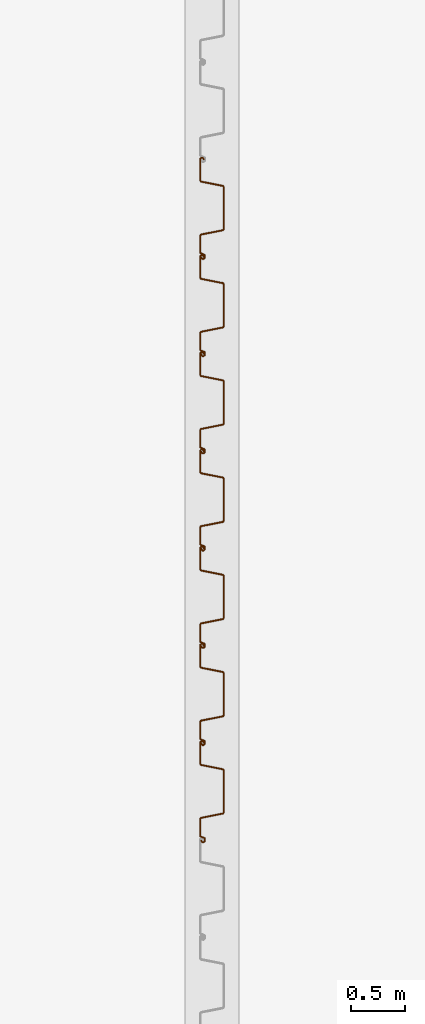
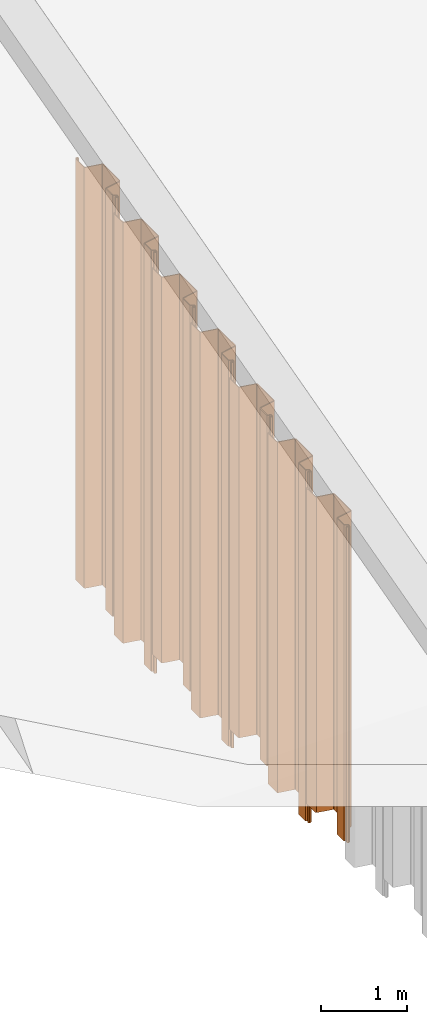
# One storey, part 22 of 32: 7 proxies.
"""IFC2X3 building model written with IfcOpenShell, lengths in millimetres."""

from ifc_helpers import new_model, entity, si_unit, converted_unit, derived_unit, direction, frame, frame_2d, origin, place, context, subcontext, project, spatial, polyline, circle_curve, parameter, trimmed, segment, composite_curve, outline, extrude, source, transform, mapped, type_object, type_shapes, element, save


model = new_model("IFC2X3")

# Units and contexts
model_context = context("Model", 3, precision=0.01, world=origin(), true_north=direction((6.12303176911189e-17, 1.0)))
body_context = subcontext(model_context, "Body", "Model", "MODEL_VIEW")
ifc_project = project(units=[si_unit("LENGTHUNIT", "METRE", prefix="MILLI"), si_unit("AREAUNIT", "SQUARE_METRE"), si_unit("VOLUMEUNIT", "CUBIC_METRE"), converted_unit("PLANEANGLEUNIT", "DEGREE", entity("IfcRatioMeasure", 0.0174532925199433), si_unit("PLANEANGLEUNIT", "RADIAN"), dimensions=[0, 0, 0, 0, 0, 0, 0]), si_unit("MASSUNIT", "GRAM", prefix="KILO"), derived_unit("MASSDENSITYUNIT", [(si_unit("MASSUNIT", "GRAM", prefix="KILO"), 1), (si_unit("LENGTHUNIT", "METRE"), -3)]), si_unit("TIMEUNIT", "SECOND"), si_unit("FREQUENCYUNIT", "HERTZ"), si_unit("THERMODYNAMICTEMPERATUREUNIT", "DEGREE_CELSIUS"), derived_unit("THERMALTRANSMITTANCEUNIT", [(si_unit("MASSUNIT", "GRAM", prefix="KILO"), 1), (si_unit("THERMODYNAMICTEMPERATUREUNIT", "KELVIN"), -1), (si_unit("TIMEUNIT", "SECOND"), -3)]), derived_unit("VOLUMETRICFLOWRATEUNIT", [(si_unit("LENGTHUNIT", "METRE"), 3), (si_unit("TIMEUNIT", "SECOND"), -1)]), si_unit("ELECTRICCURRENTUNIT", "AMPERE"), si_unit("ELECTRICVOLTAGEUNIT", "VOLT"), si_unit("POWERUNIT", "WATT"), si_unit("FORCEUNIT", "NEWTON", prefix="KILO"), si_unit("ILLUMINANCEUNIT", "LUX"), si_unit("LUMINOUSFLUXUNIT", "LUMEN"), si_unit("LUMINOUSINTENSITYUNIT", "CANDELA"), derived_unit("USERDEFINED", [(si_unit("MASSUNIT", "GRAM", prefix="KILO"), -1), (si_unit("LENGTHUNIT", "METRE"), -2), (si_unit("TIMEUNIT", "SECOND"), 3), (si_unit("LUMINOUSFLUXUNIT", "LUMEN"), 1)]), derived_unit("LINEARVELOCITYUNIT", [(si_unit("LENGTHUNIT", "METRE"), 1), (si_unit("TIMEUNIT", "SECOND"), -1)]), si_unit("PRESSUREUNIT", "PASCAL"), derived_unit("USERDEFINED", [(si_unit("LENGTHUNIT", "METRE"), -2), (si_unit("MASSUNIT", "GRAM", prefix="KILO"), 1), (si_unit("TIMEUNIT", "SECOND"), -2)])], contexts=[model_context])

# Site, building, storey
site_placement = place(None, origin())
site = spatial("IfcSite", under=ifc_project, at=site_placement, Name="Default", CompositionType="ELEMENT")
building_placement = place(site_placement, origin())
building = spatial("IfcBuilding", under=site, at=building_placement, CompositionType="ELEMENT")
storey_placement = place(building_placement, origin())
storey = spatial("IfcBuildingStorey", under=building, at=storey_placement, Name="矢板", CompositionType="ELEMENT", Elevation=0.0)

# Proxies
building_element_proxy_type_1 = type_object("IfcBuildingElementProxyType", Name="鋼矢板10H型", PredefinedType="NOTDEFINED")
shared_shape_1 = source(origin(), body_context, "Body", "SweptSolid", [
    extrude(outline(composite_curve([segment(trimmed(circle_curve(frame_2d((85.3662976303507, 306.644432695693), x_axis=(0.422618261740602, 0.906307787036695)), 13.885714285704), [parameter(24.9999999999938)], [parameter(90.0000000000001)], True, "PARAMETER"), True, "CONTINUOUS"), segment(polyline([(72.7815666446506, 312.512789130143), (9.8129512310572, 177.476157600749)]), True, "CONTINUOUS"), segment(trimmed(circle_curve(frame_2d((29.3891994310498, 168.347603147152), x_axis=(0.422618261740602, 0.906307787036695)), 21.6), [parameter(90.0000000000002)], [parameter(168.69006752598)], True, "PARAMETER"), True, "CONTINUOUS"), segment(polyline([(16.598697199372, 150.941769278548), (175.329723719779, 34.2998683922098)]), True, "CONTINUOUS"), segment(trimmed(circle_curve(frame_2d((168.93447260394, 25.596951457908), x_axis=(0.422618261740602, 0.906307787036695)), 10.7999999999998), [parameter(270.0)], [parameter(348.690067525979)], True, "PARAMETER"), False, "CONTINUOUS"), segment(polyline([(178.722596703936, 21.0326742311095), (18.2974003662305, -323.000269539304)]), True, "CONTINUOUS"), segment(trimmed(circle_curve(frame_2d((8.50927626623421, -318.435992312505), x_axis=(0.422618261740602, 0.906307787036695)), 10.8), [parameter(191.30993247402)], [parameter(269.999999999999)], True, "PARAMETER"), False, "CONTINUOUS"), segment(polyline([(5.95324328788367, -328.929166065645), (-185.429973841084, -282.310113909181)]), True, "CONTINUOUS"), segment(trimmed(circle_curve(frame_2d((-190.542039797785, -303.296461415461), x_axis=(0.422618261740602, 0.906307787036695)), 21.6000000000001), [parameter(11.3099324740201)], [parameter(90.0000000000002)], True, "PARAMETER"), True, "CONTINUOUS"), segment(polyline([(-210.118287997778, -294.167906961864), (-290.330886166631, -466.184378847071)]), True, "CONTINUOUS"), segment(trimmed(circle_curve(frame_2d((-270.754637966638, -475.312933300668), x_axis=(0.422618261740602, 0.906307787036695)), 21.6), [parameter(90.0000000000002)], [parameter(269.999999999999)], True, "PARAMETER"), True, "CONTINUOUS"), segment(polyline([(-251.178389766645, -484.441487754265), (-249.065298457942, -479.909948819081)]), True, "CONTINUOUS"), segment(polyline([(-249.065298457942, -479.909948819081), (-258.853422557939, -475.345671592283)]), True, "CONTINUOUS"), segment(polyline([(-258.853422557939, -475.345671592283), (-260.966513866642, -479.877210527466)]), True, "CONTINUOUS"), segment(trimmed(circle_curve(frame_2d((-270.754637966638, -475.312933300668), x_axis=(0.422618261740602, 0.906307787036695)), 10.8), [parameter(90.0000000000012)], [parameter(270.0)], True, "PARAMETER"), False, "CONTINUOUS"), segment(polyline([(-280.542762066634, -470.748656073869), (-200.330163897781, -298.732184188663)]), True, "CONTINUOUS"), segment(trimmed(circle_curve(frame_2d((-190.542039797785, -303.296461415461), x_axis=(0.422618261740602, 0.906307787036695)), 10.8), [parameter(11.3099324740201)], [parameter(89.9999999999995)], True, "PARAMETER"), False, "CONTINUOUS"), segment(polyline([(-187.986006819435, -292.803287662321), (3.39721030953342, -339.422339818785)]), True, "CONTINUOUS"), segment(trimmed(circle_curve(frame_2d((8.50927626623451, -318.435992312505), x_axis=(0.422618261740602, 0.906307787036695)), 21.6), [parameter(191.30993247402)], [parameter(270.0)], True, "PARAMETER"), True, "CONTINUOUS"), segment(polyline([(28.0855244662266, -327.564546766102), (188.510720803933, 16.4683970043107)]), True, "CONTINUOUS"), segment(trimmed(circle_curve(frame_2d((168.93447260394, 25.5969514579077), x_axis=(0.422618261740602, 0.906307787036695)), 21.6), [parameter(270.0)], [parameter(348.69006752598)], True, "PARAMETER"), True, "CONTINUOUS"), segment(polyline([(181.724974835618, 43.0027853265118), (22.9939483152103, 159.644686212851)]), True, "CONTINUOUS"), segment(trimmed(circle_curve(frame_2d((29.3891994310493, 168.347603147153), x_axis=(0.422618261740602, 0.906307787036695)), 10.7999999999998), [parameter(89.9999999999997)], [parameter(168.690067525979)], True, "PARAMETER"), False, "CONTINUOUS"), segment(polyline([(19.6010753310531, 172.911880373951), (82.5696907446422, 307.948511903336)]), True, "CONTINUOUS"), segment(trimmed(circle_curve(frame_2d((85.3662976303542, 306.64443269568), x_axis=(0.422618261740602, 0.906307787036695)), 3.08571428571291), [parameter(25.0000000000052)], [parameter(90.0000000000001)], True, "PARAMETER"), False, "CONTINUOUS"), segment(polyline([(85.3662976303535, 309.730146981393), (122.220231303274, 309.730146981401)]), True, "CONTINUOUS"), segment(trimmed(circle_curve(frame_2d((122.220231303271, 323.615861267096), x_axis=(0.422618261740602, 0.906307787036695)), 13.8857142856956), [parameter(205.000000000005)], [parameter(270.0)], True, "PARAMETER"), True, "CONTINUOUS"), segment(polyline([(134.804962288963, 317.747504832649), (141.079261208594, 331.202782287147)]), True, "CONTINUOUS"), segment(trimmed(circle_curve(frame_2d((121.503013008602, 340.331336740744), x_axis=(0.422618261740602, 0.906307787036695)), 21.6), [parameter(270.0)], [parameter(90.0000000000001)], True, "PARAMETER"), True, "CONTINUOUS"), segment(polyline([(101.926764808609, 349.459891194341), (99.8136734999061, 344.928352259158)]), True, "CONTINUOUS"), segment(polyline([(99.8136734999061, 344.928352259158), (109.601797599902, 340.364075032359)]), True, "CONTINUOUS"), segment(polyline([(109.601797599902, 340.364075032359), (111.714888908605, 344.895613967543)]), True, "CONTINUOUS"), segment(trimmed(circle_curve(frame_2d((121.503013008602, 340.331336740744), x_axis=(0.422618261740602, 0.906307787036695)), 10.8), [parameter(270.0)], [parameter(89.9999999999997)], True, "PARAMETER"), False, "CONTINUOUS"), segment(polyline([(131.291137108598, 335.767059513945), (125.01683818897, 322.311782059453)]), True, "CONTINUOUS"), segment(trimmed(circle_curve(frame_2d((122.220231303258, 323.615861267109), x_axis=(0.422618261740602, 0.906307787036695)), 3.08571428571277), [parameter(204.999999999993)], [parameter(270.0)], True, "PARAMETER"), False, "CONTINUOUS"), segment(polyline([(122.220231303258, 320.530146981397), (85.3662976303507, 320.530146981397)]), True, "CONTINUOUS")], self_intersect=False)), frame((95.205667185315, -48.8888888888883, -6000.0), z_axis=(0.0, 0.0, -1.0), x_axis=(0.4226182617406, 0.906307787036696, 0.0)), (0.0, 0.0, -1.0), 6000.0),
])
type_shapes(building_element_proxy_type_1, [shared_shape_1])
for number, where, z_axis, x_axis in (
    (1, (148500.0, -24049.0, 8234.0), (0.0, 0.0, 1.0), (0.0, -1.0, 0.0)),
    (2, (148500.0, -24949.0, 7997.0), (0.0, 0.0, 1.0), (0.0, -1.0, 0.0)),
):
    element("IfcBuildingElementProxy", number, at=place(storey_placement, frame(where, z_axis=z_axis, x_axis=x_axis)), inside=storey, type_object=building_element_proxy_type_1, Name="鋼矢板10H型:鋼矢板10H型", ObjectType="鋼矢板10H型:鋼矢板10H型", context=body_context, shape_type="MappedRepresentation", body=[
        mapped(shared_shape_1, transform((0.0, 0.0, 0.0), scale=1.0)),
    ])
building_element_proxy_type_2 = type_object("IfcBuildingElementProxyType", Name="鋼矢板10H型", PredefinedType="NOTDEFINED")
shared_shape_2 = source(origin(), body_context, "Body", "SweptSolid", [
    extrude(outline(composite_curve([segment(trimmed(circle_curve(frame_2d((85.3662976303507, 306.644432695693), x_axis=(0.422618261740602, 0.906307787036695)), 13.885714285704), [parameter(24.9999999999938)], [parameter(90.0000000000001)], True, "PARAMETER"), True, "CONTINUOUS"), segment(polyline([(72.7815666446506, 312.512789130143), (9.8129512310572, 177.476157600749)]), True, "CONTINUOUS"), segment(trimmed(circle_curve(frame_2d((29.3891994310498, 168.347603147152), x_axis=(0.422618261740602, 0.906307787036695)), 21.6), [parameter(90.0000000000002)], [parameter(168.69006752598)], True, "PARAMETER"), True, "CONTINUOUS"), segment(polyline([(16.598697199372, 150.941769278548), (175.329723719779, 34.2998683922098)]), True, "CONTINUOUS"), segment(trimmed(circle_curve(frame_2d((168.93447260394, 25.596951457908), x_axis=(0.422618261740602, 0.906307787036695)), 10.7999999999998), [parameter(270.0)], [parameter(348.690067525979)], True, "PARAMETER"), False, "CONTINUOUS"), segment(polyline([(178.722596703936, 21.0326742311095), (18.2974003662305, -323.000269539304)]), True, "CONTINUOUS"), segment(trimmed(circle_curve(frame_2d((8.50927626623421, -318.435992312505), x_axis=(0.422618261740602, 0.906307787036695)), 10.8), [parameter(191.30993247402)], [parameter(269.999999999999)], True, "PARAMETER"), False, "CONTINUOUS"), segment(polyline([(5.95324328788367, -328.929166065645), (-185.429973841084, -282.310113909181)]), True, "CONTINUOUS"), segment(trimmed(circle_curve(frame_2d((-190.542039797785, -303.296461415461), x_axis=(0.422618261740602, 0.906307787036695)), 21.6000000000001), [parameter(11.3099324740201)], [parameter(90.0000000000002)], True, "PARAMETER"), True, "CONTINUOUS"), segment(polyline([(-210.118287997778, -294.167906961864), (-290.330886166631, -466.184378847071)]), True, "CONTINUOUS"), segment(trimmed(circle_curve(frame_2d((-270.754637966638, -475.312933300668), x_axis=(0.422618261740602, 0.906307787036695)), 21.6), [parameter(90.0000000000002)], [parameter(269.999999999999)], True, "PARAMETER"), True, "CONTINUOUS"), segment(polyline([(-251.178389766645, -484.441487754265), (-249.065298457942, -479.909948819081)]), True, "CONTINUOUS"), segment(polyline([(-249.065298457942, -479.909948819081), (-258.853422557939, -475.345671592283)]), True, "CONTINUOUS"), segment(polyline([(-258.853422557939, -475.345671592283), (-260.966513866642, -479.877210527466)]), True, "CONTINUOUS"), segment(trimmed(circle_curve(frame_2d((-270.754637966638, -475.312933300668), x_axis=(0.422618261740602, 0.906307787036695)), 10.8), [parameter(90.0000000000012)], [parameter(270.0)], True, "PARAMETER"), False, "CONTINUOUS"), segment(polyline([(-280.542762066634, -470.748656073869), (-200.330163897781, -298.732184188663)]), True, "CONTINUOUS"), segment(trimmed(circle_curve(frame_2d((-190.542039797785, -303.296461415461), x_axis=(0.422618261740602, 0.906307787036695)), 10.8), [parameter(11.3099324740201)], [parameter(89.9999999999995)], True, "PARAMETER"), False, "CONTINUOUS"), segment(polyline([(-187.986006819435, -292.803287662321), (3.39721030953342, -339.422339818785)]), True, "CONTINUOUS"), segment(trimmed(circle_curve(frame_2d((8.50927626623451, -318.435992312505), x_axis=(0.422618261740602, 0.906307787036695)), 21.6), [parameter(191.30993247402)], [parameter(270.0)], True, "PARAMETER"), True, "CONTINUOUS"), segment(polyline([(28.0855244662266, -327.564546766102), (188.510720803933, 16.4683970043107)]), True, "CONTINUOUS"), segment(trimmed(circle_curve(frame_2d((168.93447260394, 25.5969514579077), x_axis=(0.422618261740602, 0.906307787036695)), 21.6), [parameter(270.0)], [parameter(348.69006752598)], True, "PARAMETER"), True, "CONTINUOUS"), segment(polyline([(181.724974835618, 43.0027853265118), (22.9939483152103, 159.644686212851)]), True, "CONTINUOUS"), segment(trimmed(circle_curve(frame_2d((29.3891994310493, 168.347603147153), x_axis=(0.422618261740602, 0.906307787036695)), 10.7999999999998), [parameter(89.9999999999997)], [parameter(168.690067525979)], True, "PARAMETER"), False, "CONTINUOUS"), segment(polyline([(19.6010753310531, 172.911880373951), (82.5696907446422, 307.948511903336)]), True, "CONTINUOUS"), segment(trimmed(circle_curve(frame_2d((85.3662976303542, 306.64443269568), x_axis=(0.422618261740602, 0.906307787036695)), 3.08571428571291), [parameter(25.0000000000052)], [parameter(90.0000000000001)], True, "PARAMETER"), False, "CONTINUOUS"), segment(polyline([(85.3662976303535, 309.730146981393), (122.220231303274, 309.730146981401)]), True, "CONTINUOUS"), segment(trimmed(circle_curve(frame_2d((122.220231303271, 323.615861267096), x_axis=(0.422618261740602, 0.906307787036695)), 13.8857142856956), [parameter(205.000000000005)], [parameter(270.0)], True, "PARAMETER"), True, "CONTINUOUS"), segment(polyline([(134.804962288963, 317.747504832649), (141.079261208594, 331.202782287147)]), True, "CONTINUOUS"), segment(trimmed(circle_curve(frame_2d((121.503013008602, 340.331336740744), x_axis=(0.422618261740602, 0.906307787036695)), 21.6), [parameter(270.0)], [parameter(90.0000000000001)], True, "PARAMETER"), True, "CONTINUOUS"), segment(polyline([(101.926764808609, 349.459891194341), (99.8136734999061, 344.928352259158)]), True, "CONTINUOUS"), segment(polyline([(99.8136734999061, 344.928352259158), (109.601797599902, 340.364075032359)]), True, "CONTINUOUS"), segment(polyline([(109.601797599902, 340.364075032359), (111.714888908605, 344.895613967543)]), True, "CONTINUOUS"), segment(trimmed(circle_curve(frame_2d((121.503013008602, 340.331336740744), x_axis=(0.422618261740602, 0.906307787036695)), 10.8), [parameter(270.0)], [parameter(89.9999999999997)], True, "PARAMETER"), False, "CONTINUOUS"), segment(polyline([(131.291137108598, 335.767059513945), (125.01683818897, 322.311782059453)]), True, "CONTINUOUS"), segment(trimmed(circle_curve(frame_2d((122.220231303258, 323.615861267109), x_axis=(0.422618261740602, 0.906307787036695)), 3.08571428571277), [parameter(204.999999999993)], [parameter(270.0)], True, "PARAMETER"), False, "CONTINUOUS"), segment(polyline([(122.220231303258, 320.530146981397), (85.3662976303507, 320.530146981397)]), True, "CONTINUOUS")], self_intersect=False)), frame((95.205667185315, -48.8888888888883, -5500.0), z_axis=(0.0, 0.0, -1.0), x_axis=(0.4226182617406, 0.906307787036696, 0.0)), (0.0, 0.0, -1.0), 5500.0),
])
type_shapes(building_element_proxy_type_2, [shared_shape_2])
for number, where, z_axis, x_axis in (
    (3, (148500.0, -25849.0, 7760.0), (0.0, 0.0, 1.0), (0.0, -1.0, 0.0)),
    (4, (148500.0, -26749.0, 7523.0), (0.0, 0.0, 1.0), (0.0, -1.0, 0.0)),
):
    element("IfcBuildingElementProxy", number, at=place(storey_placement, frame(where, z_axis=z_axis, x_axis=x_axis)), inside=storey, type_object=building_element_proxy_type_2, Name="鋼矢板10H型:鋼矢板10H型", ObjectType="鋼矢板10H型:鋼矢板10H型", context=body_context, shape_type="MappedRepresentation", body=[
        mapped(shared_shape_2, transform((0.0, 0.0, 0.0), scale=1.0)),
    ])
building_element_proxy_type_3 = type_object("IfcBuildingElementProxyType", Name="鋼矢板10H型", PredefinedType="NOTDEFINED")
shared_shape_3 = source(origin(), body_context, "Body", "SweptSolid", [
    extrude(outline(composite_curve([segment(trimmed(circle_curve(frame_2d((85.3662976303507, 306.644432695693), x_axis=(0.422618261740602, 0.906307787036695)), 13.885714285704), [parameter(24.9999999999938)], [parameter(90.0000000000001)], True, "PARAMETER"), True, "CONTINUOUS"), segment(polyline([(72.7815666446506, 312.512789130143), (9.8129512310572, 177.476157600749)]), True, "CONTINUOUS"), segment(trimmed(circle_curve(frame_2d((29.3891994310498, 168.347603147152), x_axis=(0.422618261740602, 0.906307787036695)), 21.6), [parameter(90.0000000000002)], [parameter(168.69006752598)], True, "PARAMETER"), True, "CONTINUOUS"), segment(polyline([(16.598697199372, 150.941769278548), (175.329723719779, 34.2998683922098)]), True, "CONTINUOUS"), segment(trimmed(circle_curve(frame_2d((168.93447260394, 25.596951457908), x_axis=(0.422618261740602, 0.906307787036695)), 10.7999999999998), [parameter(270.0)], [parameter(348.690067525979)], True, "PARAMETER"), False, "CONTINUOUS"), segment(polyline([(178.722596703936, 21.0326742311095), (18.2974003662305, -323.000269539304)]), True, "CONTINUOUS"), segment(trimmed(circle_curve(frame_2d((8.50927626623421, -318.435992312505), x_axis=(0.422618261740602, 0.906307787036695)), 10.8), [parameter(191.30993247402)], [parameter(269.999999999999)], True, "PARAMETER"), False, "CONTINUOUS"), segment(polyline([(5.95324328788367, -328.929166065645), (-185.429973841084, -282.310113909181)]), True, "CONTINUOUS"), segment(trimmed(circle_curve(frame_2d((-190.542039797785, -303.296461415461), x_axis=(0.422618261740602, 0.906307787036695)), 21.6000000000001), [parameter(11.3099324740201)], [parameter(90.0000000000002)], True, "PARAMETER"), True, "CONTINUOUS"), segment(polyline([(-210.118287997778, -294.167906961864), (-290.330886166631, -466.184378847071)]), True, "CONTINUOUS"), segment(trimmed(circle_curve(frame_2d((-270.754637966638, -475.312933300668), x_axis=(0.422618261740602, 0.906307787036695)), 21.6), [parameter(90.0000000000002)], [parameter(269.999999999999)], True, "PARAMETER"), True, "CONTINUOUS"), segment(polyline([(-251.178389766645, -484.441487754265), (-249.065298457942, -479.909948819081)]), True, "CONTINUOUS"), segment(polyline([(-249.065298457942, -479.909948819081), (-258.853422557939, -475.345671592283)]), True, "CONTINUOUS"), segment(polyline([(-258.853422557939, -475.345671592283), (-260.966513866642, -479.877210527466)]), True, "CONTINUOUS"), segment(trimmed(circle_curve(frame_2d((-270.754637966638, -475.312933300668), x_axis=(0.422618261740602, 0.906307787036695)), 10.8), [parameter(90.0000000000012)], [parameter(270.0)], True, "PARAMETER"), False, "CONTINUOUS"), segment(polyline([(-280.542762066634, -470.748656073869), (-200.330163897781, -298.732184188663)]), True, "CONTINUOUS"), segment(trimmed(circle_curve(frame_2d((-190.542039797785, -303.296461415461), x_axis=(0.422618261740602, 0.906307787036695)), 10.8), [parameter(11.3099324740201)], [parameter(89.9999999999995)], True, "PARAMETER"), False, "CONTINUOUS"), segment(polyline([(-187.986006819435, -292.803287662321), (3.39721030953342, -339.422339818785)]), True, "CONTINUOUS"), segment(trimmed(circle_curve(frame_2d((8.50927626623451, -318.435992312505), x_axis=(0.422618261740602, 0.906307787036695)), 21.6), [parameter(191.30993247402)], [parameter(270.0)], True, "PARAMETER"), True, "CONTINUOUS"), segment(polyline([(28.0855244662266, -327.564546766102), (188.510720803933, 16.4683970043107)]), True, "CONTINUOUS"), segment(trimmed(circle_curve(frame_2d((168.93447260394, 25.5969514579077), x_axis=(0.422618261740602, 0.906307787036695)), 21.6), [parameter(270.0)], [parameter(348.69006752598)], True, "PARAMETER"), True, "CONTINUOUS"), segment(polyline([(181.724974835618, 43.0027853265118), (22.9939483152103, 159.644686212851)]), True, "CONTINUOUS"), segment(trimmed(circle_curve(frame_2d((29.3891994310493, 168.347603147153), x_axis=(0.422618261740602, 0.906307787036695)), 10.7999999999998), [parameter(89.9999999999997)], [parameter(168.690067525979)], True, "PARAMETER"), False, "CONTINUOUS"), segment(polyline([(19.6010753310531, 172.911880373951), (82.5696907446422, 307.948511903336)]), True, "CONTINUOUS"), segment(trimmed(circle_curve(frame_2d((85.3662976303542, 306.64443269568), x_axis=(0.422618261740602, 0.906307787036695)), 3.08571428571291), [parameter(25.0000000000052)], [parameter(90.0000000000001)], True, "PARAMETER"), False, "CONTINUOUS"), segment(polyline([(85.3662976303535, 309.730146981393), (122.220231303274, 309.730146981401)]), True, "CONTINUOUS"), segment(trimmed(circle_curve(frame_2d((122.220231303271, 323.615861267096), x_axis=(0.422618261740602, 0.906307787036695)), 13.8857142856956), [parameter(205.000000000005)], [parameter(270.0)], True, "PARAMETER"), True, "CONTINUOUS"), segment(polyline([(134.804962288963, 317.747504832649), (141.079261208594, 331.202782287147)]), True, "CONTINUOUS"), segment(trimmed(circle_curve(frame_2d((121.503013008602, 340.331336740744), x_axis=(0.422618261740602, 0.906307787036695)), 21.6), [parameter(270.0)], [parameter(90.0000000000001)], True, "PARAMETER"), True, "CONTINUOUS"), segment(polyline([(101.926764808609, 349.459891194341), (99.8136734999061, 344.928352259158)]), True, "CONTINUOUS"), segment(polyline([(99.8136734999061, 344.928352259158), (109.601797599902, 340.364075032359)]), True, "CONTINUOUS"), segment(polyline([(109.601797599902, 340.364075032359), (111.714888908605, 344.895613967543)]), True, "CONTINUOUS"), segment(trimmed(circle_curve(frame_2d((121.503013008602, 340.331336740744), x_axis=(0.422618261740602, 0.906307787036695)), 10.8), [parameter(270.0)], [parameter(89.9999999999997)], True, "PARAMETER"), False, "CONTINUOUS"), segment(polyline([(131.291137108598, 335.767059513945), (125.01683818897, 322.311782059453)]), True, "CONTINUOUS"), segment(trimmed(circle_curve(frame_2d((122.220231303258, 323.615861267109), x_axis=(0.422618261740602, 0.906307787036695)), 3.08571428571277), [parameter(204.999999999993)], [parameter(270.0)], True, "PARAMETER"), False, "CONTINUOUS"), segment(polyline([(122.220231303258, 320.530146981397), (85.3662976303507, 320.530146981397)]), True, "CONTINUOUS")], self_intersect=False)), frame((95.205667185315, -48.8888888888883, -5000.0), z_axis=(0.0, 0.0, -1.0), x_axis=(0.4226182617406, 0.906307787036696, 0.0)), (0.0, 0.0, -1.0), 5000.0),
])
type_shapes(building_element_proxy_type_3, [shared_shape_3])
for number, where, z_axis, x_axis in (
    (5, (148500.0, -27649.0, 7286.0), (0.0, 0.0, 1.0), (0.0, -1.0, 0.0)),
    (6, (148500.0, -28549.0, 7049.0), (0.0, 0.0, 1.0), (0.0, -1.0, 0.0)),
):
    element("IfcBuildingElementProxy", number, at=place(storey_placement, frame(where, z_axis=z_axis, x_axis=x_axis)), inside=storey, type_object=building_element_proxy_type_3, Name="鋼矢板10H型:鋼矢板10H型", ObjectType="鋼矢板10H型:鋼矢板10H型", context=body_context, shape_type="MappedRepresentation", body=[
        mapped(shared_shape_3, transform((0.0, 0.0, 0.0), scale=1.0)),
    ])
building_element_proxy_type_4 = type_object("IfcBuildingElementProxyType", Name="鋼矢板10H型", PredefinedType="NOTDEFINED")
shared_shape_4 = source(origin(), body_context, "Body", "SweptSolid", [
    extrude(outline(composite_curve([segment(trimmed(circle_curve(frame_2d((85.3662976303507, 306.644432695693), x_axis=(0.422618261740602, 0.906307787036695)), 13.885714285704), [parameter(24.9999999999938)], [parameter(90.0000000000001)], True, "PARAMETER"), True, "CONTINUOUS"), segment(polyline([(72.7815666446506, 312.512789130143), (9.8129512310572, 177.476157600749)]), True, "CONTINUOUS"), segment(trimmed(circle_curve(frame_2d((29.3891994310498, 168.347603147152), x_axis=(0.422618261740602, 0.906307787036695)), 21.6), [parameter(90.0000000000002)], [parameter(168.69006752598)], True, "PARAMETER"), True, "CONTINUOUS"), segment(polyline([(16.598697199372, 150.941769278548), (175.329723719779, 34.2998683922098)]), True, "CONTINUOUS"), segment(trimmed(circle_curve(frame_2d((168.93447260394, 25.596951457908), x_axis=(0.422618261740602, 0.906307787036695)), 10.7999999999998), [parameter(270.0)], [parameter(348.690067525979)], True, "PARAMETER"), False, "CONTINUOUS"), segment(polyline([(178.722596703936, 21.0326742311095), (18.2974003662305, -323.000269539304)]), True, "CONTINUOUS"), segment(trimmed(circle_curve(frame_2d((8.50927626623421, -318.435992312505), x_axis=(0.422618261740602, 0.906307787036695)), 10.8), [parameter(191.30993247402)], [parameter(269.999999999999)], True, "PARAMETER"), False, "CONTINUOUS"), segment(polyline([(5.95324328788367, -328.929166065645), (-185.429973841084, -282.310113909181)]), True, "CONTINUOUS"), segment(trimmed(circle_curve(frame_2d((-190.542039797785, -303.296461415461), x_axis=(0.422618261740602, 0.906307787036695)), 21.6000000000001), [parameter(11.3099324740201)], [parameter(90.0000000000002)], True, "PARAMETER"), True, "CONTINUOUS"), segment(polyline([(-210.118287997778, -294.167906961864), (-290.330886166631, -466.184378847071)]), True, "CONTINUOUS"), segment(trimmed(circle_curve(frame_2d((-270.754637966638, -475.312933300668), x_axis=(0.422618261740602, 0.906307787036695)), 21.6), [parameter(90.0000000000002)], [parameter(269.999999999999)], True, "PARAMETER"), True, "CONTINUOUS"), segment(polyline([(-251.178389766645, -484.441487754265), (-249.065298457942, -479.909948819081)]), True, "CONTINUOUS"), segment(polyline([(-249.065298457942, -479.909948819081), (-258.853422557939, -475.345671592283)]), True, "CONTINUOUS"), segment(polyline([(-258.853422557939, -475.345671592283), (-260.966513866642, -479.877210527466)]), True, "CONTINUOUS"), segment(trimmed(circle_curve(frame_2d((-270.754637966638, -475.312933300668), x_axis=(0.422618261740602, 0.906307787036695)), 10.8), [parameter(90.0000000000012)], [parameter(270.0)], True, "PARAMETER"), False, "CONTINUOUS"), segment(polyline([(-280.542762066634, -470.748656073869), (-200.330163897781, -298.732184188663)]), True, "CONTINUOUS"), segment(trimmed(circle_curve(frame_2d((-190.542039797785, -303.296461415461), x_axis=(0.422618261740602, 0.906307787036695)), 10.8), [parameter(11.3099324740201)], [parameter(89.9999999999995)], True, "PARAMETER"), False, "CONTINUOUS"), segment(polyline([(-187.986006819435, -292.803287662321), (3.39721030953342, -339.422339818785)]), True, "CONTINUOUS"), segment(trimmed(circle_curve(frame_2d((8.50927626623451, -318.435992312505), x_axis=(0.422618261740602, 0.906307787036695)), 21.6), [parameter(191.30993247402)], [parameter(270.0)], True, "PARAMETER"), True, "CONTINUOUS"), segment(polyline([(28.0855244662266, -327.564546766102), (188.510720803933, 16.4683970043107)]), True, "CONTINUOUS"), segment(trimmed(circle_curve(frame_2d((168.93447260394, 25.5969514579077), x_axis=(0.422618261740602, 0.906307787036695)), 21.6), [parameter(270.0)], [parameter(348.69006752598)], True, "PARAMETER"), True, "CONTINUOUS"), segment(polyline([(181.724974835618, 43.0027853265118), (22.9939483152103, 159.644686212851)]), True, "CONTINUOUS"), segment(trimmed(circle_curve(frame_2d((29.3891994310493, 168.347603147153), x_axis=(0.422618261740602, 0.906307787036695)), 10.7999999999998), [parameter(89.9999999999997)], [parameter(168.690067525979)], True, "PARAMETER"), False, "CONTINUOUS"), segment(polyline([(19.6010753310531, 172.911880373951), (82.5696907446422, 307.948511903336)]), True, "CONTINUOUS"), segment(trimmed(circle_curve(frame_2d((85.3662976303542, 306.64443269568), x_axis=(0.422618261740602, 0.906307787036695)), 3.08571428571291), [parameter(25.0000000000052)], [parameter(90.0000000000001)], True, "PARAMETER"), False, "CONTINUOUS"), segment(polyline([(85.3662976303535, 309.730146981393), (122.220231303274, 309.730146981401)]), True, "CONTINUOUS"), segment(trimmed(circle_curve(frame_2d((122.220231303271, 323.615861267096), x_axis=(0.422618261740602, 0.906307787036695)), 13.8857142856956), [parameter(205.000000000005)], [parameter(270.0)], True, "PARAMETER"), True, "CONTINUOUS"), segment(polyline([(134.804962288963, 317.747504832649), (141.079261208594, 331.202782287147)]), True, "CONTINUOUS"), segment(trimmed(circle_curve(frame_2d((121.503013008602, 340.331336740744), x_axis=(0.422618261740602, 0.906307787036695)), 21.6), [parameter(270.0)], [parameter(90.0000000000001)], True, "PARAMETER"), True, "CONTINUOUS"), segment(polyline([(101.926764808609, 349.459891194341), (99.8136734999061, 344.928352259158)]), True, "CONTINUOUS"), segment(polyline([(99.8136734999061, 344.928352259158), (109.601797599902, 340.364075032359)]), True, "CONTINUOUS"), segment(polyline([(109.601797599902, 340.364075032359), (111.714888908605, 344.895613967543)]), True, "CONTINUOUS"), segment(trimmed(circle_curve(frame_2d((121.503013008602, 340.331336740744), x_axis=(0.422618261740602, 0.906307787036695)), 10.8), [parameter(270.0)], [parameter(89.9999999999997)], True, "PARAMETER"), False, "CONTINUOUS"), segment(polyline([(131.291137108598, 335.767059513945), (125.01683818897, 322.311782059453)]), True, "CONTINUOUS"), segment(trimmed(circle_curve(frame_2d((122.220231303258, 323.615861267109), x_axis=(0.422618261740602, 0.906307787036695)), 3.08571428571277), [parameter(204.999999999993)], [parameter(270.0)], True, "PARAMETER"), False, "CONTINUOUS"), segment(polyline([(122.220231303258, 320.530146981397), (85.3662976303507, 320.530146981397)]), True, "CONTINUOUS")], self_intersect=False)), frame((95.205667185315, -48.8888888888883, -4500.0), z_axis=(0.0, 0.0, -1.0), x_axis=(0.4226182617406, 0.906307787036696, 0.0)), (0.0, 0.0, -1.0), 4500.0),
])
type_shapes(building_element_proxy_type_4, [shared_shape_4])
proxy_placement = place(storey_placement, frame((148500.0, -29449.0, 6812.0), z_axis=(0.0, 0.0, 1.0), x_axis=(0.0, -1.0, 0.0)))
element("IfcBuildingElementProxy", 7, at=proxy_placement, inside=storey, type_object=building_element_proxy_type_4, Name="鋼矢板10H型:鋼矢板10H型", ObjectType="鋼矢板10H型:鋼矢板10H型", context=body_context, shape_type="MappedRepresentation", body=[
    mapped(shared_shape_4, transform((0.0, 0.0, 0.0), scale=1.0)),
])

save(model, "model.ifc")
